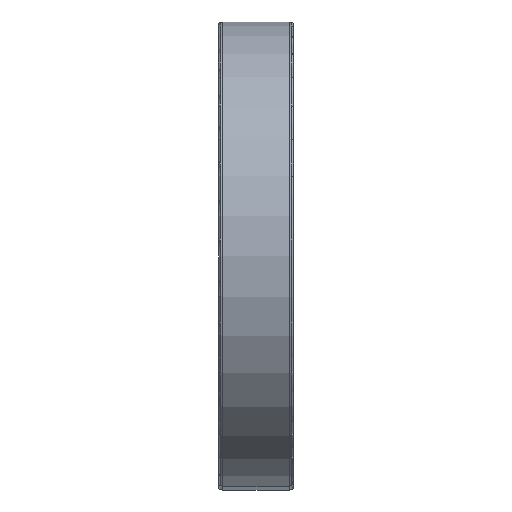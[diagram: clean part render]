
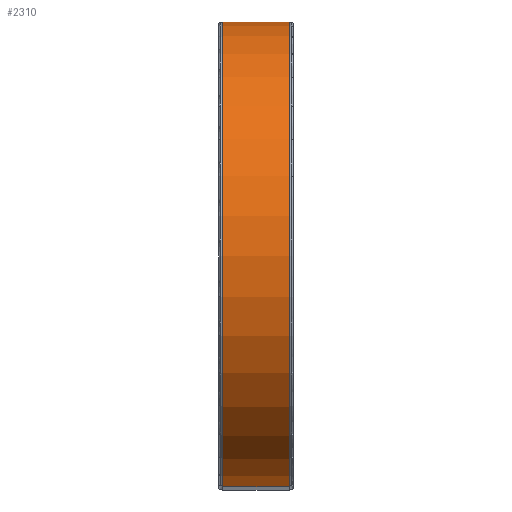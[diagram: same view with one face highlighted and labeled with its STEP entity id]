
A CAD part, front view. The second image highlights one B-rep face of the part: STEP entity #2310.
In plain terms, the highlighted cylindrical face has radius 31.525 mm (diameter 63.05 mm), a partial arc.
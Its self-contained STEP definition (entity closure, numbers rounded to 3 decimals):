
#794 = CARTESIAN_POINT ( 'NONE',  ( -6.206, 1.473, -3.337 ) ) ;
#1213 = DIRECTION ( 'NONE',  ( 0., 0.172, 0.985 ) ) ;
#1433 = CYLINDRICAL_SURFACE ( 'NONE', #14788, 31.525 ) ;
#2310 = ADVANCED_FACE ( 'NONE', ( #18460 ), #1433, .T. ) ;
#2840 = VERTEX_POINT ( 'NONE', #14647 ) ;
#3037 = DIRECTION ( 'NONE',  ( 1., 0., 0. ) ) ;
#3047 = EDGE_CURVE ( 'NONE', #10886, #2840, #16810, .T. ) ;
#4062 = CARTESIAN_POINT ( 'NONE',  ( 2.794, 6.89, 27.719 ) ) ;
#5049 = VERTEX_POINT ( 'NONE', #5131 ) ;
#5131 = CARTESIAN_POINT ( 'NONE',  ( -6.206, -3.943, -34.393 ) ) ;
#5350 = EDGE_LOOP ( 'NONE', ( #10051, #23158, #15272, #9359 ) ) ;
#6930 = VECTOR ( 'NONE', #20317, 1000. ) ;
#9359 = ORIENTED_EDGE ( 'NONE', *, *, #20230, .F. ) ;
#10051 = ORIENTED_EDGE ( 'NONE', *, *, #14507, .F. ) ;
#10886 = VERTEX_POINT ( 'NONE', #4062 ) ;
#11638 = CARTESIAN_POINT ( 'NONE',  ( 2.794, 1.473, -3.337 ) ) ;
#11783 = DIRECTION ( 'NONE',  ( 0., 0.172, 0.985 ) ) ;
#13199 = AXIS2_PLACEMENT_3D ( 'NONE', #794, #20628, #11783 ) ;
#13590 = CARTESIAN_POINT ( 'NONE',  ( 2.794, -3.943, -34.393 ) ) ;
#14142 = DIRECTION ( 'NONE',  ( -1., 0., 0. ) ) ;
#14507 = EDGE_CURVE ( 'NONE', #10886, #27121, #20320, .T. ) ;
#14647 = CARTESIAN_POINT ( 'NONE',  ( -6.206, 6.89, 27.719 ) ) ;
#14788 = AXIS2_PLACEMENT_3D ( 'NONE', #20706, #14142, #18161 ) ;
#15272 = ORIENTED_EDGE ( 'NONE', *, *, #19820, .T. ) ;
#16675 = CARTESIAN_POINT ( 'NONE',  ( 2.794, 6.89, 27.719 ) ) ;
#16810 = LINE ( 'NONE', #16675, #19609 ) ;
#17253 = CARTESIAN_POINT ( 'NONE',  ( 2.794, -3.943, -34.393 ) ) ;
#18078 = CIRCLE ( 'NONE', #13199, 31.525 ) ;
#18161 = DIRECTION ( 'NONE',  ( 0., -0.172, -0.985 ) ) ;
#18460 = FACE_OUTER_BOUND ( 'NONE', #5350, .T. ) ;
#19060 = DIRECTION ( 'NONE',  ( -1., 0., 0. ) ) ;
#19609 = VECTOR ( 'NONE', #19060, 1000. ) ;
#19820 = EDGE_CURVE ( 'NONE', #2840, #5049, #18078, .T. ) ;
#20230 = EDGE_CURVE ( 'NONE', #27121, #5049, #26678, .T. ) ;
#20317 = DIRECTION ( 'NONE',  ( -1., 0., 0. ) ) ;
#20320 = CIRCLE ( 'NONE', #26630, 31.525 ) ;
#20628 = DIRECTION ( 'NONE',  ( 1., 0., 0. ) ) ;
#20706 = CARTESIAN_POINT ( 'NONE',  ( 2.794, 1.473, -3.337 ) ) ;
#23158 = ORIENTED_EDGE ( 'NONE', *, *, #3047, .T. ) ;
#26630 = AXIS2_PLACEMENT_3D ( 'NONE', #11638, #3037, #1213 ) ;
#26678 = LINE ( 'NONE', #13590, #6930 ) ;
#27121 = VERTEX_POINT ( 'NONE', #17253 ) ;
